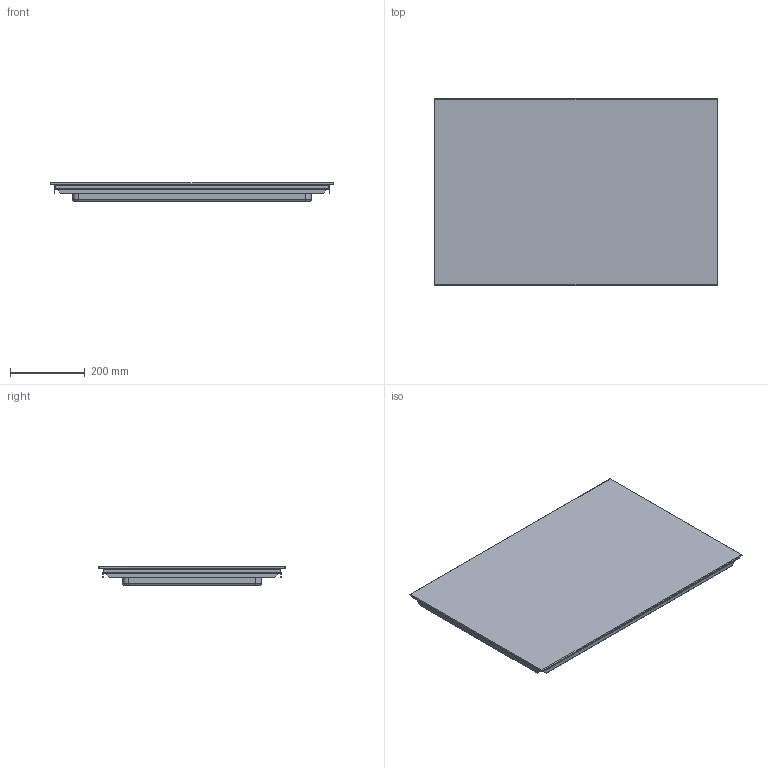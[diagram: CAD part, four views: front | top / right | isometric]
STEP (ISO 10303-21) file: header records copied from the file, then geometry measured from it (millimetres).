
FILE_DESCRIPTION(('CATIA V5 STEP Exchange'),'2;1');
FILE_NAME('P:\CATIA-UserDaten\3D Planungsdaten\GK\test\3101700402.stp','2013-09-05T16:04:21+00:00',('none'),('none'),'CATIA Version 5 Release 21 SP 3 (IN-10)','CATIA V5 STEP AP214','none');
FILE_SCHEMA(('AUTOMOTIVE_DESIGN { 1 0 10303 214 1 1 1 1 }'));
Length unit declared in the file: millimetre
Products named in the file (1): 3101700402
Bounding box: 761 x 501 x 50 mm (x, y, z)
Volume: 9935566.2 mm3; surface area: 2182466.3 mm2
Topology: 4 solids, 4 shells, 89 faces, 224 edges, 144 vertices
Faces by surface type: plane 41, cylinder 32, cone 8, revolution 4, torus 4
Entity records: 2827 total; most frequent: CARTESIAN_POINT 728, ORIENTED_EDGE 448, DIRECTION 356, EDGE_CURVE 224, VERTEX_POINT 144, AXIS2_PLACEMENT_3D 139, VECTOR 132, LINE 132
